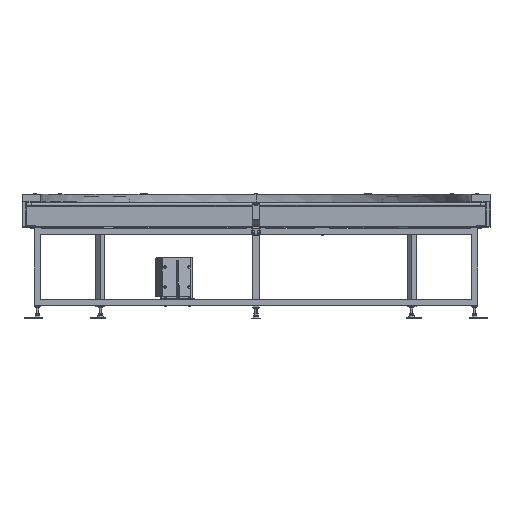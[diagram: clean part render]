
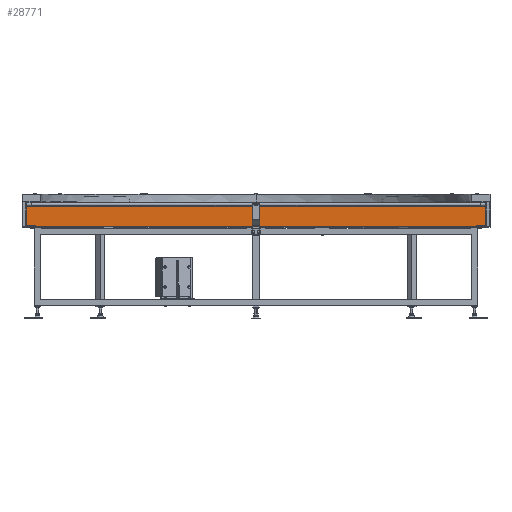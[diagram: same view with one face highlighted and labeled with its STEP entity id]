
A CAD part, top view. The second image highlights one B-rep face of the part: STEP entity #28771.
In plain terms, the highlighted planar face has unit normal (0, 0, 1).
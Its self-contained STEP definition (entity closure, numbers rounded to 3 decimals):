
#897 = DIRECTION ( 'NONE',  ( -1., 0., 0. ) ) ;
#1076 = VECTOR ( 'NONE', #21921, 1000. ) ;
#4308 = CARTESIAN_POINT ( 'NONE',  ( -1518.4, -15., -34. ) ) ;
#4707 = VECTOR ( 'NONE', #897, 1000. ) ;
#9267 = DIRECTION ( 'NONE',  ( 0., 0., 1. ) ) ;
#9497 = PLANE ( 'NONE',  #23202 ) ;
#10137 = DIRECTION ( 'NONE',  ( 0., -1., 0. ) ) ;
#11992 = CARTESIAN_POINT ( 'NONE',  ( -1518.4, -15., -34. ) ) ;
#15772 = DIRECTION ( 'NONE',  ( 1., 0., 0. ) ) ;
#16091 = CARTESIAN_POINT ( 'NONE',  ( -1518.4, -154., -34. ) ) ;
#16135 = VECTOR ( 'NONE', #26417, 1000. ) ;
#17706 = VERTEX_POINT ( 'NONE', #45000 ) ;
#18310 = FACE_OUTER_BOUND ( 'NONE', #34074, .T. ) ;
#21178 = EDGE_CURVE ( 'NONE', #17706, #32749, #66906, .T. ) ;
#21921 = DIRECTION ( 'NONE',  ( -1., 0., 0. ) ) ;
#22046 = CARTESIAN_POINT ( 'NONE',  ( -1518.4, -154., -34. ) ) ;
#22207 = VECTOR ( 'NONE', #10137, 1000. ) ;
#23202 = AXIS2_PLACEMENT_3D ( 'NONE', #42529, #9267, #15772 ) ;
#25429 = ORIENTED_EDGE ( 'NONE', *, *, #54169, .T. ) ;
#26417 = DIRECTION ( 'NONE',  ( 0., -1., 0. ) ) ;
#27761 = ORIENTED_EDGE ( 'NONE', *, *, #64309, .T. ) ;
#27766 = VERTEX_POINT ( 'NONE', #4308 ) ;
#28455 = ORIENTED_EDGE ( 'NONE', *, *, #54161, .F. ) ;
#28771 = ADVANCED_FACE ( 'NONE', ( #18310 ), #9497, .T. ) ;
#29182 = LINE ( 'NONE', #70678, #22207 ) ;
#32749 = VERTEX_POINT ( 'NONE', #22046 ) ;
#34074 = EDGE_LOOP ( 'NONE', ( #34631, #28455, #27761, #25429 ) ) ;
#34631 = ORIENTED_EDGE ( 'NONE', *, *, #21178, .F. ) ;
#37006 = LINE ( 'NONE', #59300, #16135 ) ;
#42529 = CARTESIAN_POINT ( 'NONE',  ( -1518.4, -15., -34. ) ) ;
#45000 = CARTESIAN_POINT ( 'NONE',  ( 1518.4, -154., -34. ) ) ;
#50482 = VERTEX_POINT ( 'NONE', #51499 ) ;
#51499 = CARTESIAN_POINT ( 'NONE',  ( 1518.4, -15., -34. ) ) ;
#54161 = EDGE_CURVE ( 'NONE', #50482, #17706, #37006, .T. ) ;
#54169 = EDGE_CURVE ( 'NONE', #27766, #32749, #29182, .T. ) ;
#58435 = LINE ( 'NONE', #11992, #4707 ) ;
#59300 = CARTESIAN_POINT ( 'NONE',  ( 1518.4, -15., -34. ) ) ;
#64309 = EDGE_CURVE ( 'NONE', #50482, #27766, #58435, .T. ) ;
#66906 = LINE ( 'NONE', #16091, #1076 ) ;
#70678 = CARTESIAN_POINT ( 'NONE',  ( -1518.4, -15., -34. ) ) ;
